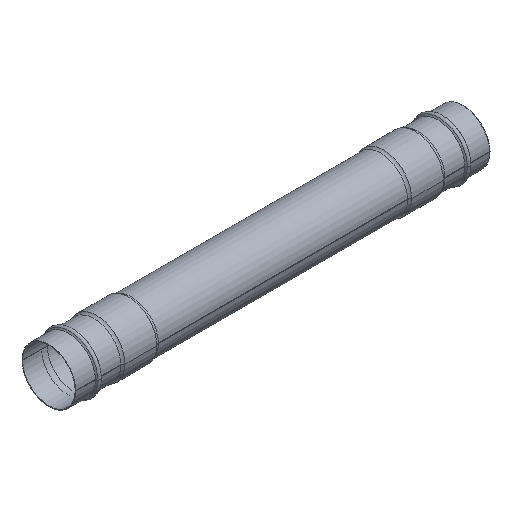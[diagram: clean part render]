
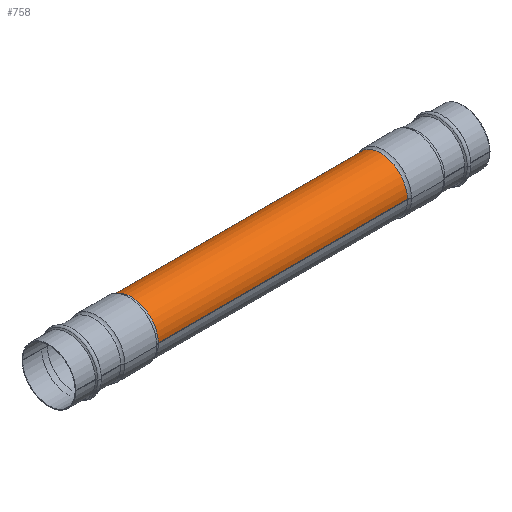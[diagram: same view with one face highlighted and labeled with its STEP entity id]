
A CAD part, isometric view. The second image highlights one B-rep face of the part: STEP entity #758.
In plain terms, the highlighted cylindrical face has radius 42.25 mm (diameter 84.5 mm), a partial arc.
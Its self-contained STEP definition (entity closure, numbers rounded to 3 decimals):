
#79=CARTESIAN_POINT('',(195.528,0.,0.));
#80=DIRECTION('',(1.,0.,0.));
#81=DIRECTION('',(0.,1.,0.));
#82=AXIS2_PLACEMENT_3D('',#79,#80,#81);
#87=CARTESIAN_POINT('',(-195.528,0.,0.));
#88=DIRECTION('',(-1.,0.,0.));
#89=DIRECTION('',(0.,-1.,0.));
#90=AXIS2_PLACEMENT_3D('',#87,#88,#89);
#175=DIRECTION('',(-1.,0.,0.));
#176=VECTOR('',#175,391.056);
#177=CARTESIAN_POINT('',(195.528,42.25,0.));
#178=LINE('',#177,#176);
#190=DIRECTION('',(-1.,0.,0.));
#191=VECTOR('',#190,391.056);
#192=CARTESIAN_POINT('',(195.528,-42.25,0.));
#193=LINE('',#192,#191);
#617=CARTESIAN_POINT('',(195.528,-42.25,0.));
#618=CARTESIAN_POINT('',(195.528,42.25,0.));
#619=VERTEX_POINT('',#617);
#620=VERTEX_POINT('',#618);
#625=CARTESIAN_POINT('',(-195.528,-42.25,0.));
#626=CARTESIAN_POINT('',(-195.528,42.25,0.));
#627=VERTEX_POINT('',#625);
#628=VERTEX_POINT('',#626);
#743=CARTESIAN_POINT('',(-357.5,0.,0.));
#744=DIRECTION('',(1.,0.,0.));
#745=DIRECTION('',(0.,-1.,0.));
#746=AXIS2_PLACEMENT_3D('',#743,#744,#745);
#747=CYLINDRICAL_SURFACE('',#746,42.25);
#749=ORIENTED_EDGE('',*,*,#748,.T.);
#751=ORIENTED_EDGE('',*,*,#750,.T.);
#753=ORIENTED_EDGE('',*,*,#752,.T.);
#755=ORIENTED_EDGE('',*,*,#754,.F.);
#756=EDGE_LOOP('',(#749,#751,#753,#755));
#757=FACE_OUTER_BOUND('',#756,.F.);
#83=CIRCLE('',#82,42.25);
#91=CIRCLE('',#90,42.25);
#748=EDGE_CURVE('',#620,#619,#83,.T.);
#750=EDGE_CURVE('',#619,#627,#193,.T.);
#752=EDGE_CURVE('',#627,#628,#91,.T.);
#754=EDGE_CURVE('',#620,#628,#178,.T.);
#758=ADVANCED_FACE('',(#757),#747,.T.);
